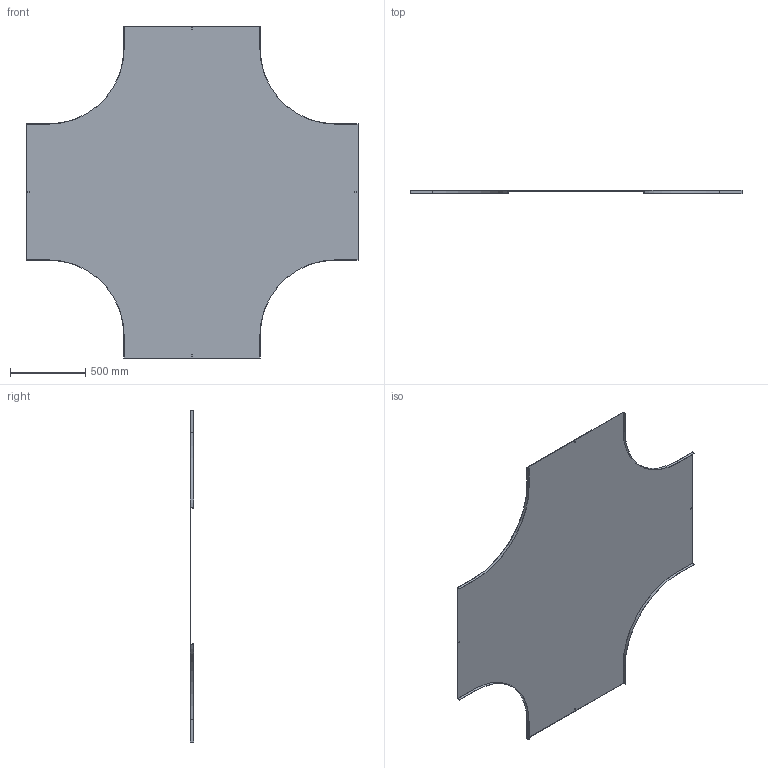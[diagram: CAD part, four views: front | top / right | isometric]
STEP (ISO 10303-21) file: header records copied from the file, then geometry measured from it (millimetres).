
FILE_DESCRIPTION (( 'STEP AP214' ), '1' );
FILE_NAME ('17N5R900.step', '2025-02-21T14:39:35', ( '' ), ( '' ), 'SwSTEP 2.0', 'SolidWorks 2023', '' );
FILE_SCHEMA (( 'AUTOMOTIVE_DESIGN' ));
Length unit declared in the file: millimetre
Products named in the file (1): 17N5R900
Bounding box: 2200 x 20 x 2200 mm (x, y, z)
Volume: 5176658.2 mm3; surface area: 6914535.1 mm2
Topology: 1 solids, 1 shells, 50 faces, 144 edges, 96 vertices
Faces by surface type: plane 42, cylinder 8
Entity records: 1663 total; most frequent: CARTESIAN_POINT 291, ORIENTED_EDGE 288, DIRECTION 262, EDGE_CURVE 144, VECTOR 128, LINE 128, VERTEX_POINT 96, AXIS2_PLACEMENT_3D 67
